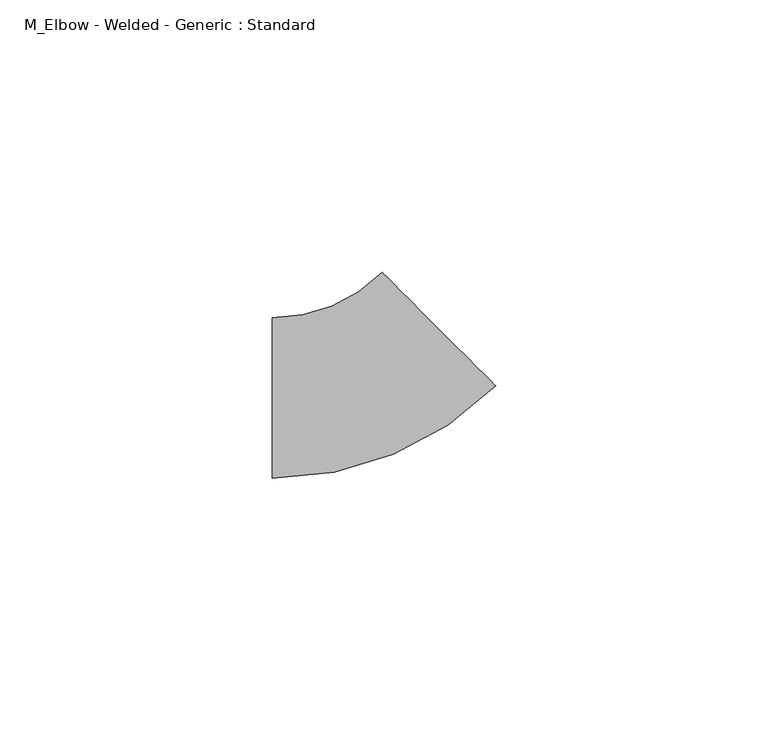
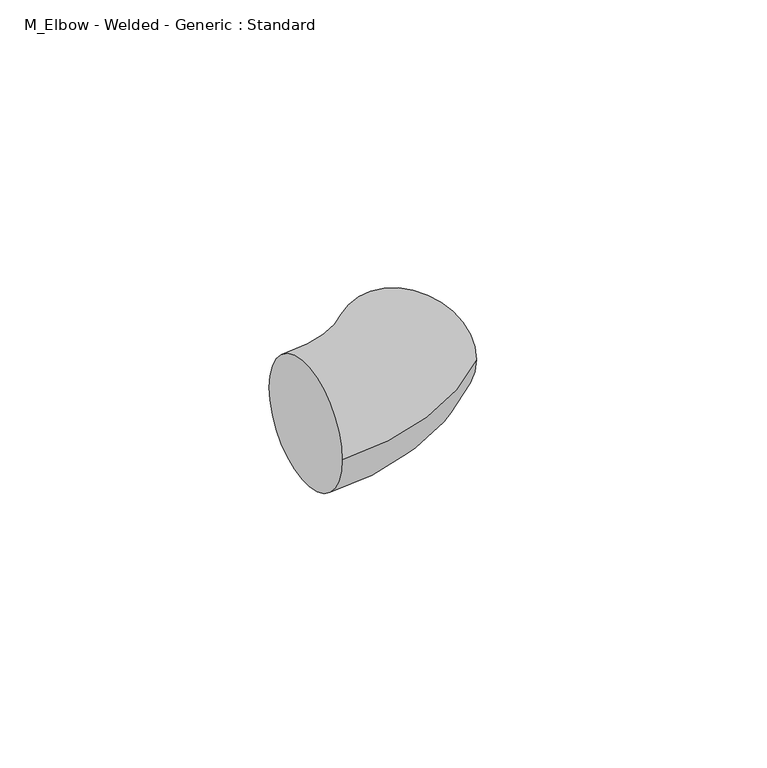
"""IFC4 building model written with IfcOpenShell, lengths in millimetres: pipe fitting geometry, M_Elbow - Welded - Generic : Standard."""

from ifc_helpers import new_model, si_unit, point, frame, origin, place, context, project, spatial, circle_curve, ellipse_curve, trimmed, source, transform, mapped, element, save
from ifc_brep_helpers import plane_surface, revolved_surface, advanced_brep


def m_elbow_welded_generic_standard_505a3430(model_context):
    return source(origin(), model_context, "Body", "AdvancedBrep", [
        advanced_brep(
        [(-17.8917187, -14.7089844, 0.0), (-17.8917187, 14.7089844, 0.0), (23.0521655, 2.2506638, 0.0), (2.2504024, 23.052191, 0.0)],
        [
            (0, 1, circle_curve(frame((-17.8917187, 0.0, 0.0), z_axis=(-1.0, 0.0, 0.0), x_axis=(0.0, 1.0, 0.0)), 14.7089844)),
            (1, 0, circle_curve(frame((-17.8917187, 0.0, 0.0), z_axis=(-1.0, 0.0, 0.0), x_axis=(0.0, 1.0, 0.0)), 14.7089844)),
            (2, 3, circle_curve(frame((12.6512839, 12.6514274, 0.0), z_axis=(0.70710277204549, 0.7071107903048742, 0.0), x_axis=(-0.7071107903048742, 0.70710277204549, 0.0)), 14.7089844)),
            (3, 2, circle_curve(frame((12.6512839, 12.6514274, 0.0), z_axis=(0.70710277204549, 0.7071107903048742, 0.0), x_axis=(-0.7071107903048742, 0.70710277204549, 0.0)), 14.7089844)),
            (3, 1, circle_curve(frame((-17.8917187, 43.1940837, 0.0), z_axis=(0.0, 0.0, -1.0), x_axis=(0.0, -1.0, 0.0)), 28.4850993)),
            (0, 2, circle_curve(frame((-17.8917187, 43.1940837, 0.0), z_axis=(0.0, 0.0, 1.0), x_axis=(0.0, -1.0, 0.0)), 57.9030681)),
        ],
        [
            plane_surface(frame((-17.8917187, 0.0, 0.0), z_axis=(-1.0, 0.0, 0.0), x_axis=(0.0, 0.0, 1.0))),
            plane_surface(frame((12.6512839, 12.6514274, 0.0), z_axis=(0.7071027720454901, 0.7071107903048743, 0.0), x_axis=(0.0, 0.0, 1.0))),
            revolved_surface(trimmed(ellipse_curve(frame((-17.8917187, 0.0, 0.0), z_axis=(-1.0, 0.0, 0.0), x_axis=(0.0, 1.0, 0.0)), 14.7089844, 14.7089844), [point((-17.8917187, -14.7089844, 0.0))], [point((-17.8917187, 14.7089844, 0.0))], True, "CARTESIAN"), (-17.8917187, 43.1940837, 0.0), (0.0, 0.0, 1.0)),
            revolved_surface(trimmed(ellipse_curve(frame((-17.8917187, 0.0, 0.0), z_axis=(-1.0, 0.0, 0.0), x_axis=(0.0, 1.0, 0.0)), 14.7089844, 14.7089844), [point((-17.8917187, 14.7089844, 0.0))], [point((-17.8917187, -14.7089844, 0.0))], True, "CARTESIAN"), (-17.8917187, 43.1940837, 0.0), (0.0, 0.0, 1.0)),
        ],
        [
            (0, [[1, 2]]),
            (1, [[3, 4]]),
            (2, [[5, -1, 6, -4]]),
            (3, [[-6, -2, -5, -3]]),
        ],
    ),
    ])


if __name__ == "__main__":
    model = new_model("IFC4")
    model_context = context("Model", 3, world=origin())
    ifc_project = project(units=[si_unit("LENGTHUNIT", "METRE", prefix="MILLI")], contexts=[model_context])
    site = spatial("IfcSite", under=ifc_project)
    building = spatial("IfcBuilding", under=site)
    placement = place(None, origin())
    m_elbow_welded_generic_standard_shape = m_elbow_welded_generic_standard_505a3430(model_context)
    element("IfcPipeFitting", 1, ObjectType="M_Elbow - Welded - Generic : Standard", at=placement, inside=building, context=model_context, shape_type="MappedRepresentation", body=[
        mapped(m_elbow_welded_generic_standard_shape, transform((0.0, 0.0, 0.0), x_axis=(1.0, 0.0, 0.0), y_axis=(0.0, 1.0, 0.0), z_axis=(0.0, 0.0, 1.0))),
    ])
    save(model, "model.ifc")
